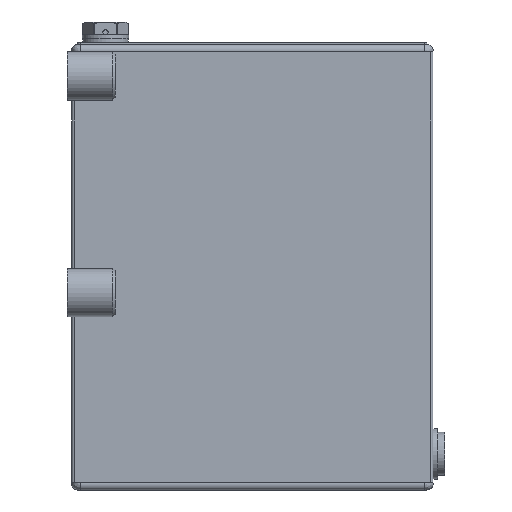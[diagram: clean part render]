
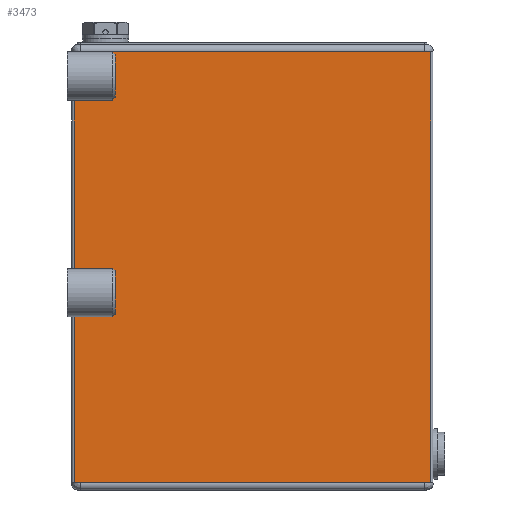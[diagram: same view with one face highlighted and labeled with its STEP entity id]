
A CAD part, front view. The second image highlights one B-rep face of the part: STEP entity #3473.
In plain terms, the highlighted planar face has unit normal (0, -1, 0).
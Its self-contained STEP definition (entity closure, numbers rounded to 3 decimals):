
#285=FACE_OUTER_BOUND('',#498,.T.);
#498=EDGE_LOOP('',(#2487,#2488,#2489,#2490));
#761=LINE('',#5614,#1010);
#762=LINE('',#5618,#1011);
#763=LINE('',#5620,#1012);
#764=LINE('',#5621,#1013);
#1010=VECTOR('',#4478,10.);
#1011=VECTOR('',#4483,10.);
#1012=VECTOR('',#4484,10.);
#1013=VECTOR('',#4485,10.);
#1476=VERTEX_POINT('',#5611);
#1477=VERTEX_POINT('',#5613);
#1478=VERTEX_POINT('',#5617);
#1479=VERTEX_POINT('',#5619);
#1850=EDGE_CURVE('',#1477,#1476,#761,.T.);
#1852=EDGE_CURVE('',#1476,#1478,#762,.T.);
#1853=EDGE_CURVE('',#1479,#1478,#763,.T.);
#1854=EDGE_CURVE('',#1479,#1477,#764,.T.);
#2487=ORIENTED_EDGE('',*,*,#1852,.T.);
#2488=ORIENTED_EDGE('',*,*,#1853,.F.);
#2489=ORIENTED_EDGE('',*,*,#1854,.T.);
#2490=ORIENTED_EDGE('',*,*,#1850,.T.);
#3113=PLANE('',#3805);
#3473=ADVANCED_FACE('',(#285),#3113,.T.);
#3805=AXIS2_PLACEMENT_3D('',#5616,#4481,#4482);
#4478=DIRECTION('',(0.,0.,1.));
#4481=DIRECTION('center_axis',(0.,-1.,0.));
#4482=DIRECTION('ref_axis',(0.,0.,-1.));
#4483=DIRECTION('',(-1.,0.,0.));
#4484=DIRECTION('',(0.,0.,1.));
#4485=DIRECTION('',(1.,0.,0.));
#5611=CARTESIAN_POINT('',(74.,-50.,179.));
#5613=CARTESIAN_POINT('',(74.,-50.,0.));
#5614=CARTESIAN_POINT('',(74.,-50.,0.));
#5616=CARTESIAN_POINT('Origin',(74.,-50.,0.));
#5617=CARTESIAN_POINT('',(-74.,-50.,179.));
#5618=CARTESIAN_POINT('',(-74.,-50.,179.));
#5619=CARTESIAN_POINT('',(-74.,-50.,0.));
#5620=CARTESIAN_POINT('',(-74.,-50.,0.));
#5621=CARTESIAN_POINT('',(-74.,-50.,0.));
